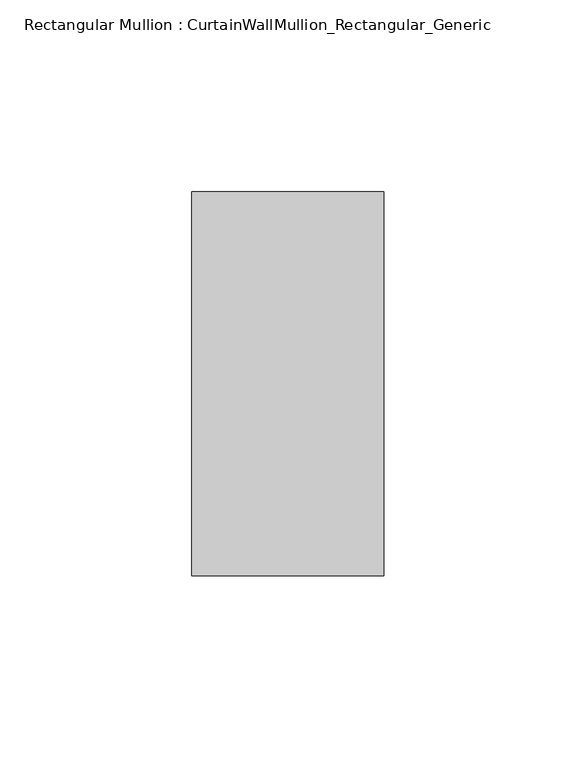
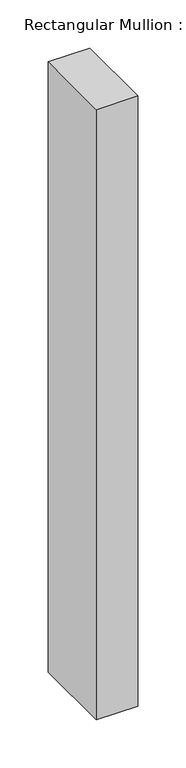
"""IFC4 building model written with IfcOpenShell, lengths in millimetres: member geometry, Rectangular Mullion : CurtainWallMullion_Rectangular_Generic."""

from ifc_helpers import new_model, si_unit, frame, origin, place, context, project, spatial, polyline, outline, extrude, source, transform, mapped, element, save


def rectangular_mullion_curtainwallmullion_rectangular_generic_672c12ae(model_context):
    return source(origin(), model_context, "Body", "SweptSolid", [
        extrude(outline(polyline([(0.0, 50.0), (0.0, -50.0), (-50.0, -50.0), (-50.0, 50.0), (0.0, 50.0)])), frame((0.0, 0.0, -775.0), z_axis=(0.0, 0.0, 1.0), x_axis=(1.0, 0.0, 0.0)), (0.0, 0.0, 1.0), 775.0),
    ])


if __name__ == "__main__":
    model = new_model("IFC4")
    model_context = context("Model", 3, world=origin())
    ifc_project = project(units=[si_unit("LENGTHUNIT", "METRE", prefix="MILLI")], contexts=[model_context])
    site = spatial("IfcSite", under=ifc_project)
    building = spatial("IfcBuilding", under=site)
    placement = place(None, origin())
    rectangular_mullion_curtainwallmullion_rectangular_generic_shape = rectangular_mullion_curtainwallmullion_rectangular_generic_672c12ae(model_context)
    element("IfcMember", 1, ObjectType="Rectangular Mullion : CurtainWallMullion_Rectangular_Generic", at=placement, inside=building, context=model_context, shape_type="MappedRepresentation", body=[
        mapped(rectangular_mullion_curtainwallmullion_rectangular_generic_shape, transform((0.0, 0.0, 0.0), x_axis=(1.0, 0.0, 0.0), y_axis=(0.0, 1.0, 0.0), z_axis=(0.0, 0.0, 1.0))),
    ])
    save(model, "model.ifc")
